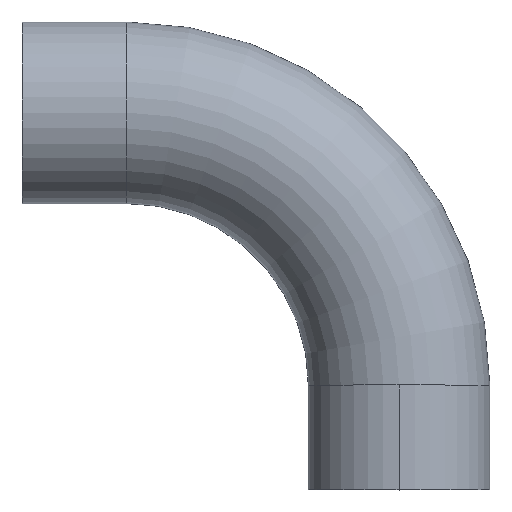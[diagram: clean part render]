
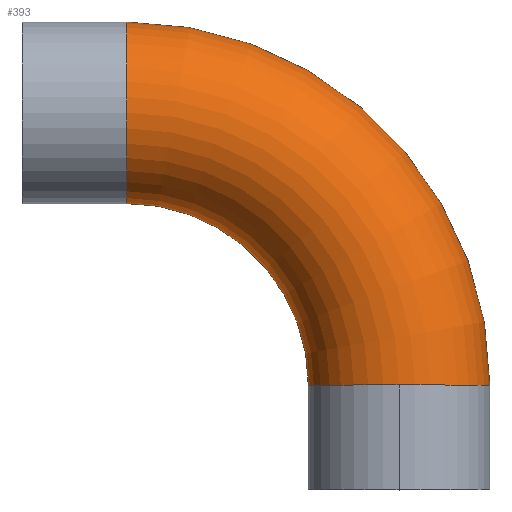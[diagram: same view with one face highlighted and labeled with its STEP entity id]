
A CAD part, top view. The second image highlights one B-rep face of the part: STEP entity #393.
In plain terms, the highlighted toroidal (fillet/blend) face has major radius 228.6 mm and minor radius 76.2 mm.
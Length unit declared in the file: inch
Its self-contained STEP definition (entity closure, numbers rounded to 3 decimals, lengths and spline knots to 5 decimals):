
#31 = EDGE_CURVE ( 'NONE', #431, #226, #198, .T. ) ;
#34 = CIRCLE ( 'NONE', #149, 3. ) ;
#35 = DIRECTION ( 'NONE',  ( 0., 0., 1. ) ) ;
#68 = CARTESIAN_POINT ( 'NONE',  ( -9., 3.46, 0. ) ) ;
#93 = EDGE_CURVE ( 'NONE', #356, #431, #34, .T. ) ;
#114 = CARTESIAN_POINT ( 'NONE',  ( -9., 3.46, 0. ) ) ;
#117 = VERTEX_POINT ( 'NONE', #307 ) ;
#119 = VERTEX_POINT ( 'NONE', #262 ) ;
#133 = CARTESIAN_POINT ( 'NONE',  ( 0., 3.46, 0. ) ) ;
#140 = DIRECTION ( 'NONE',  ( 0., 1., 0. ) ) ;
#143 = ORIENTED_EDGE ( 'NONE', *, *, #274, .T. ) ;
#149 = AXIS2_PLACEMENT_3D ( 'NONE', #133, #140, #370 ) ;
#155 = ORIENTED_EDGE ( 'NONE', *, *, #93, .T. ) ;
#158 = ORIENTED_EDGE ( 'NONE', *, *, #31, .T. ) ;
#174 = CIRCLE ( 'NONE', #265, 3. ) ;
#181 = EDGE_CURVE ( 'NONE', #356, #119, #428, .T. ) ;
#198 = CIRCLE ( 'NONE', #336, 3. ) ;
#200 = AXIS2_PLACEMENT_3D ( 'NONE', #436, #298, #371 ) ;
#210 = DIRECTION ( 'NONE',  ( 0., 0., 1. ) ) ;
#226 = VERTEX_POINT ( 'NONE', #348 ) ;
#230 = CARTESIAN_POINT ( 'NONE',  ( -3., 3.46, 0. ) ) ;
#235 = CARTESIAN_POINT ( 'NONE',  ( -9., 12.46, 0. ) ) ;
#262 = CARTESIAN_POINT ( 'NONE',  ( -9., 9.46, 0. ) ) ;
#264 = CIRCLE ( 'NONE', #360, 12. ) ;
#265 = AXIS2_PLACEMENT_3D ( 'NONE', #235, #373, #210 ) ;
#274 = EDGE_CURVE ( 'NONE', #226, #117, #264, .T. ) ;
#281 = CARTESIAN_POINT ( 'NONE',  ( 0., 3.46, 3. ) ) ;
#282 = DIRECTION ( 'NONE',  ( 0., 0., 1. ) ) ;
#295 = FACE_OUTER_BOUND ( 'NONE', #357, .T. ) ;
#298 = DIRECTION ( 'NONE',  ( 0., 0., 1. ) ) ;
#307 = CARTESIAN_POINT ( 'NONE',  ( -9., 15.46, 0. ) ) ;
#327 = ORIENTED_EDGE ( 'NONE', *, *, #181, .F. ) ;
#336 = AXIS2_PLACEMENT_3D ( 'NONE', #372, #341, #442 ) ;
#341 = DIRECTION ( 'NONE',  ( 0., 1., 0. ) ) ;
#348 = CARTESIAN_POINT ( 'NONE',  ( 3., 3.46, 0. ) ) ;
#356 = VERTEX_POINT ( 'NONE', #230 ) ;
#357 = EDGE_LOOP ( 'NONE', ( #158, #143, #394, #327, #155 ) ) ;
#360 = AXIS2_PLACEMENT_3D ( 'NONE', #68, #282, #424 ) ;
#370 = DIRECTION ( 'NONE',  ( 0., 0., 1. ) ) ;
#371 = DIRECTION ( 'NONE',  ( 1., 0., 0. ) ) ;
#372 = CARTESIAN_POINT ( 'NONE',  ( 0., 3.46, 0. ) ) ;
#373 = DIRECTION ( 'NONE',  ( -1., 0., 0. ) ) ;
#382 = DIRECTION ( 'NONE',  ( 1., 0., 0. ) ) ;
#393 = ADVANCED_FACE ( 'NONE', ( #295 ), #398, .T. ) ;
#394 = ORIENTED_EDGE ( 'NONE', *, *, #406, .F. ) ;
#398 = TOROIDAL_SURFACE ( 'NONE', #200, 9., 3. ) ;
#406 = EDGE_CURVE ( 'NONE', #119, #117, #174, .T. ) ;
#424 = DIRECTION ( 'NONE',  ( 1., 0., 0. ) ) ;
#428 = CIRCLE ( 'NONE', #438, 6. ) ;
#431 = VERTEX_POINT ( 'NONE', #281 ) ;
#436 = CARTESIAN_POINT ( 'NONE',  ( -9., 3.46, 0. ) ) ;
#438 = AXIS2_PLACEMENT_3D ( 'NONE', #114, #35, #382 ) ;
#442 = DIRECTION ( 'NONE',  ( 0., 0., 1. ) ) ;
